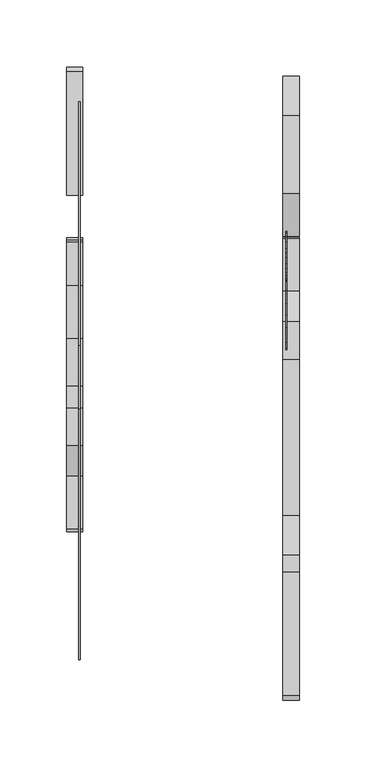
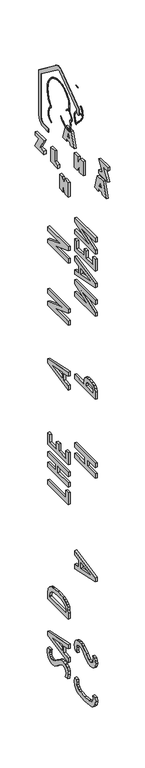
"""IFC4 building model written with IfcOpenShell, lengths in millimetres: proxy geometry, Modelos genéricos - TOTEM RETANGULAR - TOTEM RETANGULAR."""

from ifc_helpers import new_model, si_unit, point, frame, frame_2d, origin, place, context, project, spatial, polyline, circle_curve, trimmed, segment, composite_curve, outline, extrude, source, transform, mapped, element, save


def generic_models_2c9e3bdf(model_context):
    return source(origin(), model_context, "Body", "SweptSolid", [
        extrude(outline(polyline([(176.3334697, 4218.0539117), (179.5577738, 4223.9612322), (185.0006749, 4223.3216241), (189.5351089, 4221.6183957), (193.2548947, 4219.1749401), (196.2538511, 4216.3146507), (198.6257967, 4213.3609209), (200.4645505, 4210.637144), (201.8538126, 4208.4263847), (202.8193501, 4206.7808107), (203.3663482, 4205.6705572), (202.5477091, 4205.2520907), (201.4721528, 4205.98349), (200.0062717, 4207.0966054), (198.1893755, 4208.5078387), (196.083147, 4210.0984525), (193.7497369, 4211.7489742), (191.2512961, 4213.3399312), (188.6500137, 4214.7538998), (186.009063, 4215.9262054), (183.3926633, 4216.8482464), (180.8650845, 4217.5141358), (178.4905966, 4217.9179865), (176.3334697, 4218.0539117)])), frame((-295.9062385, 0.0, 0.0), z_axis=(1.0, 0.0, 0.0), x_axis=(0.0, 1.0, 0.0)), (0.0, 0.0, 1.0), 1.0),
        extrude(outline(polyline([(352.001386, 714.9732671), (375.5547544, 714.9732671), (381.4430965, 699.7770509), (383.4058772, 684.7341769), (379.7486647, 665.321049), (368.7770273, 649.8948194), (351.9630504, 639.8202341), (330.7788196, 636.462039), (303.5759059, 641.7676806), (278.8878048, 658.7886695), (256.0091423, 678.8458348), (235.2772711, 692.7693104), (217.9802662, 695.3454601), (205.6515499, 693.359678), (195.7763095, 687.4023319), (189.2899326, 678.3628067), (187.127807, 667.1304875), (190.133315, 651.7042579), (194.9789298, 640.3876004), (171.4255614, 640.3876004), (163.5744386, 671.3627334), (167.292988, 692.1712757), (178.4486361, 708.5942298), (195.5692975, 719.2668499), (217.1828865, 722.8243899), (235.2772711, 720.6469301), (251.1635274, 714.1145505), (285.4508528, 688.1997116), (314.2791944, 667.4678404), (331.8215469, 663.9409688), (342.5708381, 665.8807482), (351.6333646, 671.7000863), (357.7977227, 680.2489163), (359.8525088, 690.3771714), (357.8897281, 701.9851792), (352.001386, 714.9732671)])), frame((-304.9062385, 0.0, 0.0), z_axis=(1.0, 0.0, 0.0), x_axis=(0.0, 1.0, 0.0)), (0.0, 0.0, 1.0), 12.0),
        extrude(outline(polyline([(167.5, 3344.0566805), (167.5, 3368.6527762), (379.4803158, 3368.6527762), (379.4803158, 3341.1738464), (233.8665225, 3341.1738464), (245.7045436, 3340.5604774), (379.4803158, 3290.3868957), (379.4803158, 3266.5881797), (167.5, 3266.5881797), (167.5, 3293.3924036), (312.9297826, 3293.3924036), (301.398446, 3294.0671095), (167.5, 3344.0566805)])), frame((-304.9062385, 0.0, 0.0), z_axis=(1.0, 0.0, 0.0), x_axis=(0.0, 1.0, 0.0)), (0.0, 0.0, 1.0), 12.0),
        extrude(outline(polyline([(167.5, 832.1267402), (167.5, 860.219039), (379.4803158, 814.7070615), (379.4803158, 791.5830514), (167.5, 746.3777583), (167.5, 774.4700571), (210.6811754, 782.5051906), (210.6811754, 824.2142805), (167.5, 832.1267402)]), holes=[polyline([(326.2398893, 803.4824094), (230.3089825, 820.8407512), (230.3089825, 786.1854044), (326.2398893, 803.4824094)])]), frame((-304.9062385, 0.0, 0.0), z_axis=(1.0, 0.0, 0.0), x_axis=(0.0, 1.0, 0.0)), (0.0, 0.0, 1.0), 12.0),
        extrude(outline(polyline([(382.1994716, 3774.9026105), (382.1994716, 3684.0199203), (352.5609224, 3684.0199203), (331.1626874, 3712.4091315), (331.1626874, 3684.737625), (292.0344861, 3684.737625), (292.0344861, 3774.9026105), (320.0249725, 3774.9026105), (343.0712703, 3744.4666116), (343.0712703, 3774.9026105), (382.1994716, 3774.9026105)])), frame((-142.9062385, 0.0, 0.0), z_axis=(1.0, 0.0, 0.0), x_axis=(0.0, 1.0, 0.0)), (0.0, 0.0, 1.0), 12.0),
        extrude(outline(polyline([(379.4803158, 1880.8650041), (379.4803158, 1853.3860742), (167.5, 1853.3860742), (167.5, 1880.8650041), (273.4901579, 1880.8650041), (273.4901579, 1920.1206181), (167.5, 1920.1206181), (167.5, 1947.5995479), (379.4803158, 1947.5995479), (379.4803158, 1920.1206181), (297.0435263, 1920.1206181), (297.0435263, 1880.8650041), (379.4803158, 1880.8650041)])), frame((-304.9062385, 0.0, 0.0), z_axis=(1.0, 0.0, 0.0), x_axis=(0.0, 1.0, 0.0)), (0.0, 0.0, 1.0), 12.0),
        extrude(outline(polyline([(367.9422262, 4211.3300806), (371.1665303, 4208.0935927), (370.3099174, 4207.8884122), (369.1811614, 4207.6560111), (367.8259373, 4207.4041334), (366.28992, 4207.140523), (364.6187841, 4206.8729239), (362.8582047, 4206.6090799), (361.0538564, 4206.3567349), (359.2514142, 4206.1236329), (357.4965528, 4205.9175178), (355.8349472, 4205.7461336), (354.3122721, 4205.617224), (352.9742024, 4205.5385331), (351.8664129, 4205.5178047), (351.0345785, 4205.5627828), (350.524374, 4205.6812112), (350.3814742, 4205.880834), (350.6515539, 4206.169395), (351.3802881, 4206.5546381), (352.6133515, 4207.0443072), (354.3964189, 4207.6461463), (356.7751653, 4208.3678993), (359.7952654, 4209.2173101), (363.5023941, 4210.2021225), (367.9422262, 4211.3300806)])), frame((-140.9062385, 0.0, 0.0), z_axis=(1.0, 0.0, 0.0), x_axis=(0.0, 1.0, 0.0)), (0.0, 0.0, 1.0), 1.0),
        extrude(outline(polyline([(167.5, 2951.5005401), (167.5, 2976.0966358), (379.4803158, 2976.0966358), (379.4803158, 2948.617706), (233.8665225, 2948.617706), (245.7045436, 2948.004337), (379.4803158, 2897.8307553), (379.4803158, 2874.0320393), (167.5, 2874.0320393), (167.5, 2900.8362632), (312.9297826, 2900.8362632), (301.398446, 2901.5109691), (167.5, 2951.5005401)])), frame((-304.9062385, 0.0, 0.0), z_axis=(1.0, 0.0, 0.0), x_axis=(0.0, 1.0, 0.0)), (0.0, 0.0, 1.0), 12.0),
        extrude(outline(composite_curve([segment(trimmed(circle_curve(frame_2d((277.9817452, 4398.4164438)), 15.2551842), [point((287.1625442, 4410.5997756))], [point((269.0149729, 4410.758147))], True, "CARTESIAN"), True, "CONTINUOUS"), segment(polyline([(269.0149729, 4410.758147), (91.5699865, 4281.836818), (91.5699865, 4263.530597)]), True, "CONTINUOUS"), segment(trimmed(circle_curve(frame_2d((79.3658391, 4263.530597)), 12.2041473), [point((91.5699865, 4263.530597))], [point((67.1616918, 4263.530597))], False, "CARTESIAN"), True, "CONTINUOUS"), segment(polyline([(67.1616918, 4263.530597), (67.1616918, 4294.2734653), (254.6681373, 4430.5048722)]), True, "CONTINUOUS"), segment(trimmed(circle_curve(frame_2d((277.9817452, 4398.4164438)), 39.6634788), [point((254.6681373, 4430.5048722))], [point((301.8518226, 4430.0931064))], False, "CARTESIAN"), True, "CONTINUOUS"), segment(polyline([(301.8518226, 4430.0931064), (484.5798594, 4292.3976543), (484.5798594, 4005.8309365)]), True, "CONTINUOUS"), segment(trimmed(circle_curve(frame_2d((435.76327, 4005.8309365)), 48.8165894), [point((484.5798594, 4005.8309365))], [point((435.76327, 3957.0143472))], False, "CARTESIAN"), True, "CONTINUOUS"), segment(polyline([(435.76327, 3957.0143472), (386.9466807, 3957.0143472), (386.9466807, 3972.2695314), (383.7190917, 3981.4226419), (435.76327, 3981.4226419)]), True, "CONTINUOUS"), segment(trimmed(circle_curve(frame_2d((435.76327, 4005.8309365)), 24.4082947), [point((435.76327, 3981.4226419))], [point((460.1715647, 4005.8309365))], True, "CARTESIAN"), True, "CONTINUOUS"), segment(polyline([(460.1715647, 4005.8309365), (460.1715647, 4280.2281275), (287.1625442, 4410.5997756)]), True, "CONTINUOUS")], self_intersect=False)), frame((-295.9062385, 0.0, 0.0), z_axis=(1.0, 0.0, 0.0), x_axis=(0.0, 1.0, 0.0)), (0.0, 0.0, 1.0), 1.0),
        extrude(outline(polyline([(346.9170117, 3890.5769674), (346.9170117, 3800.411982), (272.0630616, 3800.411982), (272.0630616, 3822.5279218), (307.7888105, 3822.5279218), (307.7888105, 3890.5769674), (346.9170117, 3890.5769674)])), frame((-304.9062385, 0.0, 0.0), z_axis=(1.0, 0.0, 0.0), x_axis=(0.0, 1.0, 0.0)), (0.0, 0.0, 1.0), 12.0),
        extrude(outline(polyline([(356.4466316, 3234.5093315), (380.0, 3234.5093315), (380.0, 3159.9236649), (168.0196842, 3159.9236649), (168.0196842, 3234.5093315), (191.5730526, 3234.5093315), (191.5730526, 3187.4025947), (258.3075965, 3187.4025947), (258.3075965, 3230.5837701), (281.8609649, 3230.5837701), (281.8609649, 3187.4025947), (356.4466316, 3187.4025947), (356.4466316, 3234.5093315)])), frame((-142.9062385, 0.0, 0.0), z_axis=(1.0, 0.0, 0.0), x_axis=(0.0, 1.0, 0.0)), (0.0, 0.0, 1.0), 12.0),
        extrude(outline(polyline([(95.2770504, 3684.737625), (55.2184911, 3684.737625), (86.9304096, 3774.9026105), (145.4898032, 3774.9026105), (174.995444, 3684.737625), (135.229283, 3684.737625), (131.1888709, 3698.3474342), (99.6896057, 3698.3474342), (95.2770504, 3684.737625)]), holes=[polyline([(107.8501748, 3720.463374), (123.559935, 3720.463374), (115.9575807, 3743.6425801), (107.8501748, 3720.463374)])]), frame((-142.9062385, 0.0, 0.0), z_axis=(1.0, 0.0, 0.0), x_axis=(0.0, 1.0, 0.0)), (0.0, 0.0, 1.0), 12.0),
        extrude(outline(polyline([(167.5, 1743.4703549), (167.5, 1818.0560216), (191.0533684, 1818.0560216), (191.0533684, 1770.9492848), (379.4803158, 1770.9492848), (379.4803158, 1743.4703549), (167.5, 1743.4703549)])), frame((-304.9062385, 0.0, 0.0), z_axis=(1.0, 0.0, 0.0), x_axis=(0.0, 1.0, 0.0)), (0.0, 0.0, 1.0), 12.0),
        extrude(outline(polyline([(379.4803158, 1063.0601572), (379.4803158, 1021.1670566), (167.5, 1021.1670566), (167.5, 1058.0305317), (169.0085043, 1076.0386613), (173.5340172, 1091.0527836), (181.0765388, 1103.0728986), (191.6360689, 1112.0990063), (205.8643123, 1118.6869724), (224.4129732, 1123.3926625), (274.4715483, 1127.1572145), (325.6648559, 1122.8712988), (343.9758364, 1117.5139042), (357.4297014, 1110.0135518), (373.9676622, 1089.7033718), (379.4803158, 1063.0601572)]), holes=[polyline([(191.0533684, 1048.6459864), (355.9269474, 1048.6459864), (355.9269474, 1052.9395692), (351.457021, 1076.0329109), (338.0472419, 1090.1097288), (313.3361396, 1097.2861457), (274.9622434, 1099.6782847), (243.9411078, 1098.4055441), (221.7831538, 1094.5873222), (206.8629536, 1088.1699494), (197.5550795, 1079.0997558), (192.6787962, 1066.2880114), (191.0533684, 1048.6459864)])]), frame((-304.9062385, 0.0, 0.0), z_axis=(1.0, 0.0, 0.0), x_axis=(0.0, 1.0, 0.0)), (0.0, 0.0, 1.0), 12.0),
        extrude(outline(polyline([(168.0196842, 2975.4222789), (380.0, 2975.4222789), (380.0, 2950.8261832), (246.101554, 2900.8366122), (234.5702174, 2900.1619063), (380.0, 2900.1619063), (380.0, 2873.3576824), (168.0196842, 2873.3576824), (168.0196842, 2897.1563984), (301.7954564, 2947.3299801), (313.6334775, 2947.943349), (168.0196842, 2947.943349), (168.0196842, 2975.4222789)])), frame((-142.9062385, 0.0, 0.0), z_axis=(1.0, 0.0, 0.0), x_axis=(0.0, 1.0, 0.0)), (0.0, 0.0, 1.0), 12.0),
        extrude(outline(polyline([(416.6672835, 3800.411982), (416.6672835, 3822.5279218), (455.4233415, 3822.5279218), (414.6204958, 3890.5769674), (506.8322689, 3890.5769674), (506.8322689, 3868.4610276), (469.7508554, 3868.4610276), (510.5802827, 3800.411982), (416.6672835, 3800.411982)])), frame((-304.9062385, 0.0, 0.0), z_axis=(1.0, 0.0, 0.0), x_axis=(0.0, 1.0, 0.0)), (0.0, 0.0, 1.0), 12.0),
        extrude(outline(polyline([(171.9452456, 714.2989102), (195.498614, 714.2989102), (189.6102719, 701.3108223), (187.6474912, 689.7028145), (189.7022773, 679.5745594), (195.8666354, 671.0257294), (204.9291619, 665.2063913), (215.6784531, 663.2666119), (233.2208056, 666.7934835), (262.0491472, 687.5253547), (296.3364726, 713.4401936), (312.2227289, 719.9725731), (330.3171135, 722.150033), (351.9307025, 718.592493), (369.0513639, 707.9198729), (380.207012, 691.4969187), (383.9255614, 670.6883765), (376.0744386, 639.7132435), (352.5210702, 639.7132435), (357.366685, 651.029901), (360.372193, 666.4561306), (358.2100674, 677.6884498), (351.7236905, 686.727975), (341.8484501, 692.6853211), (329.5197338, 694.6711032), (312.2227289, 692.0949535), (291.4908577, 678.1714779), (268.6121952, 658.1143126), (243.9240941, 641.0933237), (216.7211804, 635.7876821), (195.5369496, 639.1458772), (178.7229727, 649.2204625), (167.7513353, 664.6466921), (164.0941228, 684.05982), (166.0569035, 699.102694), (171.9452456, 714.2989102)])), frame((-142.9062385, 0.0, 0.0), z_axis=(1.0, 0.0, 0.0), x_axis=(0.0, 1.0, 0.0)), (0.0, 0.0, 1.0), 12.0),
        extrude(outline(polyline([(168.0196842, 1222.2910906), (380.0, 1267.8030681), (380.0, 1239.7107693), (336.8188246, 1231.7983096), (336.8188246, 1190.0892197), (380.0, 1182.0540862), (380.0, 1153.9617874), (168.0196842, 1199.1670805), (168.0196842, 1222.2910906)]), holes=[polyline([(317.1910175, 1193.7694335), (317.1910175, 1228.4247803), (221.2601107, 1211.0664385), (317.1910175, 1193.7694335)])]), frame((-142.9062385, 0.0, 0.0), z_axis=(1.0, 0.0, 0.0), x_axis=(0.0, 1.0, 0.0)), (0.0, 0.0, 1.0), 12.0),
        extrude(outline(polyline([(380.0, 1852.7117173), (168.0196842, 1852.7117173), (168.0196842, 1880.1906472), (250.4564737, 1880.1906472), (250.4564737, 1919.4462612), (168.0196842, 1919.4462612), (168.0196842, 1946.925191), (380.0, 1946.925191), (380.0, 1919.4462612), (274.0098421, 1919.4462612), (274.0098421, 1880.1906472), (380.0, 1880.1906472), (380.0, 1852.7117173)])), frame((-142.9062385, 0.0, 0.0), z_axis=(1.0, 0.0, 0.0), x_axis=(0.0, 1.0, 0.0)), (0.0, 0.0, 1.0), 12.0),
        extrude(outline(polyline([(168.0196842, 3367.9784193), (380.0, 3367.9784193), (380.0, 3343.3823236), (246.101554, 3293.3927526), (234.5702174, 3292.7180467), (380.0, 3292.7180467), (380.0, 3265.9138228), (168.0196842, 3265.9138228), (168.0196842, 3289.7125388), (301.7954564, 3339.8861205), (313.6334775, 3340.4994894), (168.0196842, 3340.4994894), (168.0196842, 3367.9784193)])), frame((-142.9062385, 0.0, 0.0), z_axis=(1.0, 0.0, 0.0), x_axis=(0.0, 1.0, 0.0)), (0.0, 0.0, 1.0), 12.0),
        extrude(outline(polyline([(424.0284091, 3799.737625), (383.9698498, 3799.737625), (415.6817683, 3889.9026105), (474.2411619, 3889.9026105), (503.7468027, 3799.737625), (463.9806417, 3799.737625), (459.9402296, 3813.3474342), (428.4409644, 3813.3474342), (424.0284091, 3799.737625)]), holes=[polyline([(436.6015335, 3835.463374), (452.3112937, 3835.463374), (444.7089394, 3858.6425801), (436.6015335, 3835.463374)])]), frame((-142.9062385, 0.0, 0.0), z_axis=(1.0, 0.0, 0.0), x_axis=(0.0, 1.0, 0.0)), (0.0, 0.0, 1.0), 12.0),
        extrude(outline(polyline([(168.0196842, 3079.0816347), (380.0, 3124.5936122), (380.0, 3096.5013134), (336.8188246, 3088.5888537), (336.8188246, 3046.8797638), (380.0, 3038.8446303), (380.0, 3010.7523315), (168.0196842, 3055.9576246), (168.0196842, 3079.0816347)]), holes=[polyline([(317.1910175, 3050.5599776), (317.1910175, 3085.2153244), (221.2601107, 3067.8569826), (317.1910175, 3050.5599776)])]), frame((-142.9062385, 0.0, 0.0), z_axis=(1.0, 0.0, 0.0), x_axis=(0.0, 1.0, 0.0)), (0.0, 0.0, 1.0), 12.0),
        extrude(outline(polyline([(315.4962351, 4108.8655165), (324.744214, 4103.3433696), (314.6874252, 4094.1980704), (308.8358096, 4082.4495466), (305.7010204, 4071.6786557), (304.5788593, 4062.4784234), (304.8361335, 4055.9749597), (307.0315391, 4053.3549901), (313.8045848, 4054.0851015), (323.5935192, 4055.9130953), (333.4776726, 4056.5229251), (343.017205, 4055.6909365), (352.2607993, 4053.6248835), (360.9089776, 4050.5055726), (368.4244592, 4046.4932742), (374.5568524, 4041.64684), (379.5024122, 4035.8705142), (383.4061414, 4029.1055756), (386.162172, 4021.4345121), (387.6393525, 4012.9584863), (387.8002401, 4003.7483225), (386.6390883, 3993.8774545), (384.2257107, 3983.8320198), (380.7221855, 3974.6020887), (376.4245595, 3967.032492), (372.0755307, 3961.365369), (368.8673147, 3959.1508391), (367.6977904, 3963.2760949), (365.0274766, 3968.9991728), (360.0609507, 3974.4105486), (354.0168342, 3980.2287119), (347.380768, 3986.5974119), (340.3729351, 3993.449284), (333.21675, 4000.7115575), (326.1463117, 4008.295886), (319.3977268, 4016.110996), (313.2097533, 4024.0548289), (307.8513795, 4031.9023547), (303.6108201, 4039.3503345), (300.7596034, 4046.1544487), (299.3064823, 4053.0008147), (299.0534925, 4061.3074943), (300.014956, 4072.5032188), (304.361782, 4087.9267581), (315.4962351, 4108.8655165)]), holes=[composite_curve([segment(trimmed(circle_curve(frame_2d((338.6504094, 4001.5829528)), 43.5117173), [point((371.186835, 3972.6926333))], [point((382.082058, 4004.2214082))], True, "CARTESIAN"), True, "CONTINUOUS"), segment(trimmed(circle_curve(frame_2d((344.6198353, 4009.7119879)), 37.8624431), [point((382.082058, 4004.2214082))], [point((363.3572468, 4042.6129606))], True, "CARTESIAN"), True, "CONTINUOUS"), segment(trimmed(circle_curve(frame_2d((333.0734338, 3989.4376911)), 61.1941061), [point((363.3572468, 4042.6129606))], [point((306.7317489, 4044.6720487))], True, "CARTESIAN"), True, "CONTINUOUS"), segment(trimmed(circle_curve(frame_2d((545.0408215, 4193.2212492)), 280.8168069), [point((306.7317489, 4044.6720487))], [point((371.186835, 3972.6926333))], True, "CARTESIAN"), True, "CONTINUOUS")], self_intersect=False)]), frame((-140.9062385, 0.0, 0.0), z_axis=(1.0, 0.0, 0.0), x_axis=(0.0, 1.0, 0.0)), (0.0, 0.0, 1.0), 1.0),
        extrude(outline(polyline([(167.5, 2551.5226352), (167.5, 2579.614934), (379.4803158, 2534.1029565), (379.4803158, 2510.9789463), (167.5, 2465.7736533), (167.5, 2493.8659521), (210.6811754, 2501.9010856), (210.6811754, 2543.6101755), (167.5, 2551.5226352)]), holes=[polyline([(326.2398893, 2522.8783043), (230.3089825, 2540.2366462), (230.3089825, 2505.5812994), (326.2398893, 2522.8783043)])]), frame((-304.9062385, 0.0, 0.0), z_axis=(1.0, 0.0, 0.0), x_axis=(0.0, 1.0, 0.0)), (0.0, 0.0, 1.0), 12.0),
        extrude(outline(polyline([(130.8327165, 3821.8535649), (130.8327165, 3799.737625), (36.9197173, 3799.737625), (77.7491446, 3867.7866706), (40.6677311, 3867.7866706), (40.6677311, 3889.9026105), (132.8795042, 3889.9026105), (92.0766585, 3821.8535649), (130.8327165, 3821.8535649)])), frame((-142.9062385, 0.0, 0.0), z_axis=(1.0, 0.0, 0.0), x_axis=(0.0, 1.0, 0.0)), (0.0, 0.0, 1.0), 12.0),
        extrude(outline(polyline([(372.5246738, 4042.8658845), (356.8555163, 4034.0567859), (354.5345534, 4039.0341071), (366.4173013, 4045.3742793), (373.1367983, 4050.4550849), (376.8384707, 4054.7405623), (379.2763265, 4058.8300899), (380.8402147, 4062.7968727), (381.8311813, 4067.0589294), (382.4607064, 4071.9222068), (382.7789747, 4077.2941713), (382.7339151, 4082.9865629), (382.2702508, 4088.894418), (381.3378364, 4094.8990408), (379.895305, 4100.8585825), (377.917366, 4106.5820863), (375.3922746, 4111.8757813), (372.3270899, 4116.5563752), (368.6647015, 4120.6033665), (364.7092519, 4124.0877963), (361.268878, 4126.849059), (358.4466446, 4129.6532582), (358.094991, 4136.5834634), (360.0713705, 4138.9427868), (361.9036117, 4140.8141789), (364.2865491, 4143.4038219), (367.0747694, 4146.7081865), (370.1058694, 4150.7088288), (373.265277, 4155.3984331), (376.4556348, 4160.6836931), (379.5634942, 4166.4088274), (382.4838774, 4172.4297254), (385.1157178, 4178.6013937), (387.3560899, 4184.7688444), (389.1294396, 4190.8148204), (390.4548918, 4196.7433763), (391.4014856, 4202.5717052), (392.033203, 4208.3074618), (392.412347, 4213.9558624), (392.6020732, 4219.5191297), (392.6671872, 4225.0016276), (392.6757102, 4230.4081712), (392.6585155, 4235.6577675), (392.5712006, 4240.7246273), (392.3507929, 4245.63334), (391.9411367, 4250.4146354), (391.2861698, 4255.1024401), (390.3298371, 4259.7380384), (389.0141001, 4264.3641132), (387.2735878, 4269.0508954), (385.0857514, 4273.8480149), (382.5032666, 4278.7119524), (379.5853722, 4283.5930344), (376.3924471, 4288.443415), (372.9870032, 4293.2191958), (369.4317339, 4297.8779213), (365.7920387, 4302.3742273), (362.1132914, 4306.6458232), (358.3708318, 4310.6712515), (354.5291036, 4314.4398803), (350.5516846, 4317.9430924), (346.4000576, 4321.1740124), (342.0358748, 4324.1267468), (337.4029825, 4326.7995937), (332.4641572, 4329.2197905), (327.2923085, 4331.4106851), (322.0278582, 4333.3815327), (316.7942819, 4335.1555476), (311.718382, 4336.7481375), (306.9336883, 4338.1609769), (302.5052909, 4339.3886585), (298.3462475, 4340.4128593), (294.345278, 4341.2171706), (290.3783994, 4341.7964944), (286.3172853, 4342.1466642), (282.0252287, 4342.257888), (277.3669258, 4342.1184107), (272.2311533, 4341.7139284), (266.5431611, 4341.0332717), (260.4823932, 4340.1045745), (254.339908, 4338.9754085), (248.3966582, 4337.6949905), (242.929316, 4336.3113587), (237.9464913, 4334.7829919), (233.1753817, 4332.9741131), (228.3191014, 4330.7295241), (223.1020889, 4327.8915249), (217.2965662, 4324.2246606), (210.3498225, 4319.0431384), (201.63776, 4311.544616), (190.6111044, 4300.9690181), (183.3434679, 4289.1069978), (178.3696321, 4277.8522869), (175.3635989, 4267.1548565), (174.013688, 4256.9431894), (174.0483957, 4247.1561975), (175.2062157, 4237.735665), (171.7246825, 4221.6524819), (164.3241885, 4210.4343285), (157.0694575, 4200.6440293), (151.4044332, 4192.0044848), (147.9983677, 4184.9305769), (147.8608071, 4178.3957536), (151.8020584, 4172.5418853), (159.0419352, 4169.5457064), (165.2695221, 4165.799053), (165.6801367, 4157.272183), (161.8621008, 4148.0126196), (160.3212002, 4140.9973333), (162.8109618, 4136.0942397), (164.5173198, 4127.0384992), (164.3147808, 4116.5262154), (163.771199, 4107.5523986), (164.9154161, 4101.2583965), (169.8568947, 4098.0246188), (177.0566169, 4096.7985695), (184.6744854, 4096.9153926), (193.4443384, 4098.4749712), (203.3292922, 4101.3715102), (213.465246, 4105.2759929), (223.0857201, 4109.8938675), (232.1266002, 4115.1637512), (240.7588918, 4121.1034152), (249.2912084, 4128.3803031), (258.3971441, 4139.3869444), (255.2524457, 4125.8492694), (241.4832062, 4114.656023), (225.729955, 4105.4410723), (210.0022356, 4098.4294421), (196.2743119, 4093.8387339), (185.3356677, 4091.6372425), (176.5367677, 4091.4904591), (169.1413472, 4093.0456244), (162.7615202, 4096.0288753), (158.4778968, 4100.4989136), (157.3121284, 4106.6715203), (158.5552241, 4114.9713975), (159.171003, 4124.1263347), (157.0376511, 4131.9179424), (156.6965306, 4138.3007734), (152.9418326, 4140.4645779), (153.2967602, 4146.0035056), (156.7921675, 4155.1030334), (157.9493941, 4163.1710464), (152.8948669, 4166.7612251), (145.8216262, 4170.4080108), (141.1686738, 4176.3218093), (140.1185807, 4180.4599624), (142.0347579, 4185.9173647), (146.9323153, 4194.6877475), (155.5459218, 4206.0751832), (165.1963046, 4219.9408669), (169.7977832, 4236.7820124), (168.5487673, 4246.9817548), (168.5127086, 4257.6598223), (169.9853771, 4268.8261785), (173.2625428, 4280.4907869), (178.6399755, 4292.663611), (186.4134452, 4305.3546143), (201.0543237, 4319.1725159), (211.94122, 4327.9065856), (220.4375776, 4333.3944235), (227.796508, 4337.2592732), (234.7605964, 4340.1325157), (241.9248677, 4342.3588478), (249.8299858, 4344.2630244), (258.3186408, 4345.9140493), (266.7496509, 4347.2036265), (274.4918511, 4348.0228183), (281.3569091, 4348.3281836), (287.59329, 4348.1408851), (293.4679174, 4347.4850254), (299.2449275, 4346.3930031), (305.1847282, 4344.9083135), (311.5474673, 4343.0752263), (318.4959868, 4340.9195908), (325.8154599, 4338.395762), (333.1994466, 4335.4407522), (340.3415067, 4331.9915735), (346.9800843, 4327.996583), (353.1154353, 4323.4703124), (358.8424785, 4318.4512204), (364.2562627, 4312.9777982), (369.4518364, 4307.0885371), (374.5170092, 4300.8234379), (379.4115496, 4294.2491955), (383.9854847, 4287.4553846), (388.0852904, 4280.5323199), (391.557442, 4273.5703166), (394.249329, 4266.6592268), (396.1093808, 4259.8377209), (397.2773344, 4253.0475631), (397.9142349, 4246.2197242), (398.1811271, 4239.2851749), (398.2390561, 4232.1748859), (398.2298315, 4224.8240703), (398.098381, 4217.2113635), (397.674249, 4209.3408486), (396.785518, 4201.2169311), (395.2602705, 4192.8440165), (392.9268348, 4184.2267014), (389.7181696, 4175.4509737), (385.834125, 4166.8104333), (381.5164895, 4158.6313036), (377.0070514, 4151.2398081), (372.5490821, 4144.9600649), (368.4595987, 4140.0114885), (365.1619388, 4136.46254), (363.0946529, 4134.3516142), (363.0033885, 4132.9064495), (365.975045, 4130.2943432), (371.4188127, 4125.7317885), (377.1225973, 4119.5140694), (381.6155136, 4112.0174419), (384.8645659, 4103.6858284), (386.9854006, 4094.9701467), (388.0977841, 4086.2930415), (388.3395486, 4077.9531906), (387.8534761, 4070.2153041), (386.6948687, 4063.2579256), (384.3981697, 4056.7465682), (380.2964707, 4050.1568745), (372.5246738, 4042.8658845)])), frame((-295.9062385, 0.0, 0.0), z_axis=(1.0, 0.0, 0.0), x_axis=(0.0, 1.0, 0.0)), (0.0, 0.0, 1.0), 1.0),
        extrude(outline(polyline([(167.5, 1994.7062848), (167.5, 2069.2919515), (191.0533684, 2069.2919515), (191.0533684, 2022.1852146), (265.6390351, 2022.1852146), (265.6390351, 2065.3663901), (289.1924035, 2065.3663901), (289.1924035, 2022.1852146), (355.9269474, 2022.1852146), (355.9269474, 2069.2919515), (379.4803158, 2069.2919515), (379.4803158, 1994.7062848), (167.5, 1994.7062848)])), frame((-304.9062385, 0.0, 0.0), z_axis=(1.0, 0.0, 0.0), x_axis=(0.0, 1.0, 0.0)), (0.0, 0.0, 1.0), 12.0),
        extrude(outline(polyline([(194.9390776, 3684.6942772), (165.3005284, 3684.6942772), (165.3005284, 3775.5769674), (204.4287297, 3775.5769674), (204.4287297, 3745.1409685), (227.4750275, 3775.5769674), (255.4655139, 3775.5769674), (255.4655139, 3685.411982), (216.3373126, 3685.411982), (216.3373126, 3713.0834884), (194.9390776, 3684.6942772)])), frame((-304.9062385, 0.0, 0.0), z_axis=(1.0, 0.0, 0.0), x_axis=(0.0, 1.0, 0.0)), (0.0, 0.0, 1.0), 12.0),
        extrude(outline(polyline([(356.4466316, 466.9885417), (378.5279145, 466.9885417), (383.9255614, 442.0244247), (378.9342714, 418.7470723), (363.9604015, 398.8432492), (351.261747, 390.8732862), (333.1309436, 385.1804554), (280.5728901, 380.6261908), (223.0005452, 385.1804554), (202.6501128, 390.8732862), (187.9235072, 398.8432492), (170.0514689, 418.9924199), (164.0941228, 443.005815), (167.2223045, 466.9885417), (191.5730526, 466.9885417), (187.6474912, 448.7101464), (192.0330793, 433.1305746), (205.1898437, 420.0044787), (231.2580249, 411.0799602), (274.3778635, 408.1051207), (322.4659907, 410.7119388), (338.0532296, 415.0131887), (350.0982627, 422.7033021), (357.8037104, 433.3145853), (360.372193, 446.3793444), (356.4466316, 466.9885417)])), frame((-142.9062385, 0.0, 0.0), z_axis=(1.0, 0.0, 0.0), x_axis=(0.0, 1.0, 0.0)), (0.0, 0.0, 1.0), 12.0),
        extrude(outline(polyline([(380.0, 2351.2580156), (168.0196842, 2351.2580156), (168.0196842, 2394.9912232), (171.7344, 2413.6414734), (182.8785475, 2426.9630807), (201.4521266, 2434.9560451), (227.4551373, 2437.6203665), (248.6547023, 2435.7572583), (264.7786391, 2430.1679335), (275.8576161, 2421.78778), (281.9223018, 2411.5521853), (285.7865263, 2378.7369455), (380.0, 2378.7369455), (380.0, 2351.2580156)]), holes=[polyline([(191.5730526, 2378.7369455), (262.2331579, 2378.7369455), (260.5080577, 2393.204786), (255.332757, 2402.8730144), (244.9438201, 2408.3243311), (227.5778111, 2410.1414367), (209.9664546, 2408.5543445), (199.0868225, 2403.7930679), (193.4514951, 2394.3548528), (191.5730526, 2378.7369455)])]), frame((-142.9062385, 0.0, 0.0), z_axis=(1.0, 0.0, 0.0), x_axis=(0.0, 1.0, 0.0)), (0.0, 0.0, 1.0), 12.0),
    ])


if __name__ == "__main__":
    model = new_model("IFC4")
    model_context = context("Model", 3, world=origin())
    ifc_project = project(units=[si_unit("LENGTHUNIT", "METRE", prefix="MILLI")], contexts=[model_context])
    site = spatial("IfcSite", under=ifc_project)
    building = spatial("IfcBuilding", under=site)
    placement = place(None, origin())
    generic_models_shape = generic_models_2c9e3bdf(model_context)
    element("IfcBuildingElementProxy", 1, Name="Modelos genéricos - TOTEM RETANGULAR - TOTEM RETANGULAR", ObjectType="Modelos genéricos - TOTEM RETANGULAR - TOTEM RETANGULAR", at=placement, inside=building, context=model_context, shape_type="MappedRepresentation", body=[
        mapped(generic_models_shape, transform((0.0, 0.0, 0.0), x_axis=(1.0, 0.0, 0.0), y_axis=(0.0, 1.0, 0.0), z_axis=(0.0, 0.0, 1.0))),
    ])
    save(model, "model.ifc")
